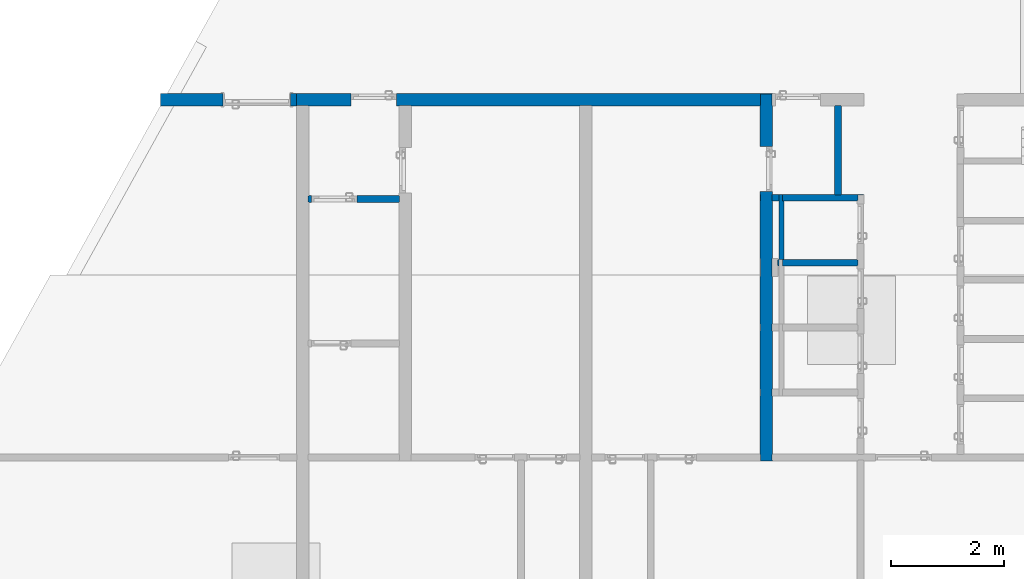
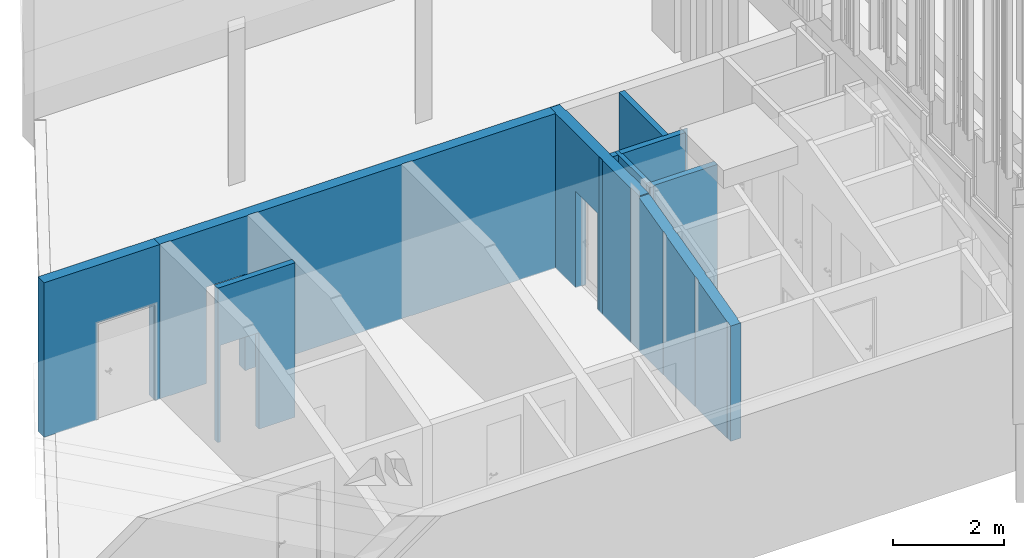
# One storey, part 125 of 390: 8 walls.
"""IFC2X3 building model written with IfcOpenShell, lengths in millimetres."""

from ifc_helpers import new_model, entity, si_unit, converted_unit, derived_unit, money_unit, direction, frame, origin_with_axes, place, context, subcontext, project, spatial, faceted_brep, material, material_list, type_object, element, save


model = new_model("IFC2X3")

# Units and contexts
model_context = context("Model", 3, precision=1e-05, world=origin_with_axes(), true_north=direction((0.0, 1.0)))
body_context = subcontext(model_context, "Body", "Model", "MODEL_VIEW")
ifc_project = project(units=[si_unit("LENGTHUNIT", "METRE", prefix="MILLI"), si_unit("AREAUNIT", "SQUARE_METRE"), si_unit("VOLUMEUNIT", "CUBIC_METRE"), converted_unit("PLANEANGLEUNIT", "DEGREE", entity("IfcPlaneAngleMeasure", 0.0174532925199), si_unit("PLANEANGLEUNIT", "RADIAN"), dimensions=[0, 0, 0, 0, 0, 0, 0]), si_unit("SOLIDANGLEUNIT", "STERADIAN"), money_unit("EUR"), converted_unit("TIMEUNIT", "Year", entity("IfcTimeMeasure", 31556926.0), si_unit("TIMEUNIT", "SECOND"), dimensions=[0, 0, 1, 0, 0, 0, 0]), si_unit("MASSUNIT", "GRAM", prefix="KILO"), si_unit("THERMODYNAMICTEMPERATUREUNIT", "DEGREE_CELSIUS"), si_unit("LUMINOUSINTENSITYUNIT", "LUMEN"), si_unit("ENERGYUNIT", "JOULE", prefix="MEGA"), derived_unit("THERMALCONDUCTANCEUNIT", [(si_unit("POWERUNIT", "WATT"), 1), (si_unit("LENGTHUNIT", "METRE"), -1), (si_unit("THERMODYNAMICTEMPERATUREUNIT", "KELVIN"), -1)]), derived_unit("SPECIFICHEATCAPACITYUNIT", [(si_unit("ENERGYUNIT", "JOULE"), 1), (si_unit("MASSUNIT", "GRAM", prefix="KILO"), -1), (si_unit("THERMODYNAMICTEMPERATUREUNIT", "KELVIN"), -1)]), derived_unit("MASSDENSITYUNIT", [(si_unit("MASSUNIT", "GRAM", prefix="KILO"), 1), (si_unit("VOLUMEUNIT", "CUBIC_METRE"), -1)])], contexts=[model_context])

# Site, building, storey
site_placement = place(None, origin_with_axes())
site = spatial("IfcSite", under=ifc_project, at=site_placement, Name="Site", CompositionType="ELEMENT")
building_placement = place(site_placement, origin_with_axes())
building = spatial("IfcBuilding", under=site, at=building_placement, Name="Building", CompositionType="ELEMENT")
storey_placement = place(building_placement, origin_with_axes())
storey = spatial("IfcBuildingStorey", under=building, at=storey_placement, Name="1 korrus", CompositionType="ELEMENT", Elevation=0.0)

# Walls
ifc_material_1 = material(Name="Krohv - Lubjakivi")
ifc_material_2 = material(Name="Raudbetoon - Konstruktsioon")
ifc_material_list_1 = material_list([ifc_material_1, ifc_material_1, ifc_material_1, ifc_material_1, ifc_material_1, ifc_material_1, ifc_material_1, ifc_material_2, ifc_material_1, ifc_material_1, ifc_material_1, ifc_material_1, ifc_material_1])
wall_type_1 = type_object("IfcWallType", Name="SS-10", PredefinedType="NOTDEFINED")
wall_1_placement = place(storey_placement, frame((117699.999993, 67290.00001, -620.0), z_axis=(0.0, 0.0, 1.0), x_axis=(-1.50745764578e-10, -1.0, 0.0)))
element("IfcWall", 1, at=wall_1_placement, inside=storey, type_object=wall_type_1, material=ifc_material_list_1, Name="SS-10", context=body_context, shape_type="Brep", body=[
    faceted_brep([(6279.99999985, -9.99999984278, 2537.44367445), (6279.99999985, 2.35246488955e-07, 2537.44367445), (6279.99999985, 9.46684508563e-07, 0.0), (6279.99999985, -9.99999984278, 0.0), (6289.99999998, 2.37463382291e-07, 2534.90399795), (6290.00000101, -10.0000020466, 2534.90399769), (6290.00000422, 9.48190859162e-07, 0.0), (6290.00000422, -9.99999905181, 0.0)], [[[0, 1, 2, 3]], [[4, 1, 0, 5]], [[1, 4, 6, 2]], [[6, 7, 3, 2]], [[5, 0, 3, 7]], [[4, 5, 7, 6]]]),
    faceted_brep([(5139.99999976, -10.0000032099, 2826.96679145), (5139.99999976, 6.21440676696e-08, 2826.96679145), (5139.99999976, 7.74832642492e-07, 0.0), (5139.99999976, -9.99999983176, 0.0), (6179.99999985, 2.1304913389e-07, 2562.84043909), (6179.99999985, -9.99999985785, 2562.84043909), (6179.99999985, 9.3160679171e-07, 0.0), (6179.99999985, -9.99999985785, 0.0)], [[[0, 1, 2, 3]], [[4, 1, 0, 5]], [[1, 4, 6, 2]], [[6, 7, 3, 2]], [[5, 0, 3, 7]], [[4, 5, 7, 6]]]),
    faceted_brep([(3989.99999953, -10.0000033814, 3119.02958496), (3989.99999953, -1.12819975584e-07, 3119.02958496), (3989.99999953, 6.01474425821e-07, 0.0), (3989.99999953, -9.99999980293, 0.0), (5019.99999976, 3.63655772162e-08, 2857.44290903), (5019.99999976, -10.0000032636, 2857.44290903), (5019.99999976, 7.56742224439e-07, 0.0), (5019.99999976, -9.99999982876, 0.0)], [[[0, 1, 2, 3]], [[4, 1, 0, 5]], [[1, 4, 6, 2]], [[6, 7, 3, 2]], [[5, 0, 3, 7]], [[4, 5, 7, 6]]]),
    faceted_brep([(3021.43148285, -10.0000014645, 3365.01465159), (3021.43148285, 1.11356257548e-07, 3365.01465159), (3021.43148285, 4.55472104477e-07, 0.0), (3021.43148285, -9.99999977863, 0.0), (3869.99999953, -1.37887923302e-07, 3149.50570253), (3869.99999953, -10.0000034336, 3149.50570253), (3869.99999953, 5.83384007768e-07, 0.0), (3869.99999953, -9.99999979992, 0.0)], [[[0, 1, 2, 3]], [[4, 1, 0, 5]], [[1, 4, 6, 2]], [[7, 3, 2, 6]], [[5, 0, 3, 7]], [[4, 5, 7, 6]]]),
    faceted_brep([(1690.0000001, -10.000000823, 3395.23675944), (1690.0000001, 6.05524519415e-08, 3395.23675944), (1690.0000001, 2.54757992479e-07, 0.0), (1690.0000001, -9.99999974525, 0.0), (2701.43148285, 9.67901314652e-08, 3395.23675944), (2701.43148285, -10.0000013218, 3395.23675944), (2701.43148285, 4.07226252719e-07, 0.0), (2701.43148285, -9.99999977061, 0.0)], [[[0, 1, 2, 3]], [[4, 1, 0, 5]], [[1, 4, 6, 2]], [[2, 6, 7, 3]], [[5, 0, 3, 7]], [[4, 5, 7, 6]]]),
    faceted_brep([(-3.16617843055e-08, -10.0, 3395.23675944), (-3.31681349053e-08, 0.0, 3395.23675944), (-10.0, -1.50635059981e-09, 3395.23675917), (-9.9999999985, -10.0000009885, 3395.23675917), (1570.0000001, 5.62465629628e-08, 3395.23675944), (1570.0000001, -10.0000007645, 3395.23675944), (1570.0000001, 2.36667574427e-07, 0.0), (1520.0000001, 2.29135821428e-07, 0.0), (1520.00000007, 2.29135821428e-07, 20.0), (1520.00000007, 2.29135821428e-07, 2120.0), (720.000000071, 1.0852829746e-07, 2120.0), (720.000000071, 1.0852829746e-07, 20.0), (720.000000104, 1.0852829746e-07, 0.0), (-10.0, -1.50635059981e-09, 0.0), (-9.9999999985, -10.0000009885, 0.0), (720.000000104, -10.0000004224, 0.0), (720.000000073, -9.99999989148, 20.0), (720.000000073, -9.99999989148, 2120.0), (1520.00000007, -9.99999977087, 2120.0), (1520.00000007, -9.99999977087, 20.0), (1520.0000001, -9.9999998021, 0.0), (1570.0000001, -9.99999976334, 0.0)], [[[0, 1, 2, 3]], [[4, 1, 0, 5]], [[1, 4, 6, 7, 8, 9, 10, 11, 12, 13, 2]], [[14, 3, 2, 13]], [[5, 0, 3, 14, 15, 16, 17, 18, 19, 20, 21]], [[4, 5, 21, 6]], [[20, 7, 6, 21]], [[20, 19, 8, 7]], [[18, 9, 8, 19]], [[17, 10, 9, 18]], [[16, 11, 10, 17]], [[12, 11, 16, 15]], [[12, 15, 14, 13]]]),
    faceted_brep([(-219.999999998, -10.0000000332, 3395.23675917), (-209.999999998, -10.0000010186, 3395.23675917), (-210.0, -3.16617843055e-08, 3395.23675917), (-220.0, -3.31681349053e-08, 3395.23675917), (-219.999999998, -10.0000000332, 0.0), (-209.999999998, -10.0000010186, 0.0), (-210.0, -3.16617843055e-08, 0.0), (-220.0, -3.31681349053e-08, 0.0)], [[[0, 1, 2, 3]], [[4, 5, 1, 0]], [[5, 6, 2, 1]], [[3, 2, 6, 7]], [[7, 4, 0, 3]], [[7, 6, 5, 4]]]),
    faceted_brep([(2993.68143661, -209.999999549, 3395.23675944), (2993.68143659, -9.99999954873, 3395.23675944), (-3.16617843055e-08, -10.0, 3395.23675944), (-1.50635059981e-09, -210.0, 3395.23675944), (2993.68143659, -9.99999954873, 3372.06226552), (2993.68143661, -209.999999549, 3372.06226553), (6290.00000101, -10.0000020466, 2534.90399769), (6290.00000422, -9.99999905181, 0.0), (1520.0000001, -9.99999974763, 0.0), (1520.00000007, -9.99999977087, 20.0), (1520.00000007, -9.99999977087, 2120.0), (720.000000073, -9.99999989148, 2120.0), (720.000000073, -9.99999989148, 20.0), (720.000000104, -9.99999986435, 0.0), (-209.999999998, -10.0, 0.0), (-209.999999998, -10.0, 3395.23675923), (-209.999999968, -210.000000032, 3395.23675923), (-209.999999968, -210.000000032, 0.0), (720.000000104, -209.999999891, 0.0), (720.000000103, -209.999999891, 20.0), (720.000000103, -209.999999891, 2120.0), (1520.0000001, -209.999999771, 2120.0), (1520.0000001, -209.999999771, 20.0), (1520.0000001, -209.999999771, 0.0), (6290.00000425, -209.999999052, 0.0), (6290.00000104, -209.999996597, 2534.90399769)], [[[0, 1, 2, 3]], [[4, 1, 0, 5]], [[4, 6, 7, 8, 9, 10, 11, 12, 13, 14, 15, 2, 1]], [[16, 3, 2, 15]], [[5, 0, 3, 16, 17, 18, 19, 20, 21, 22, 23, 24, 25]], [[6, 4, 5, 25]], [[6, 25, 24, 7]], [[24, 23, 8, 7]], [[8, 23, 22, 9]], [[22, 21, 10, 9]], [[21, 20, 11, 10]], [[20, 19, 12, 11]], [[18, 13, 12, 19]], [[14, 13, 18, 17]], [[14, 17, 16, 15]]]),
    faceted_brep([(5139.99999979, -220.000000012, 2826.96679145), (5139.99999979, -209.999996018, 2826.96679145), (5139.99999979, -209.999999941, 0.0), (5139.99999979, -220.000000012, 0.0), (6179.99999982, -210.0, 2562.84043911), (6179.99999982, -219.999999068, 2562.84043911), (6179.99999982, -210.0, 0.0), (6179.99999982, -219.999999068, 0.0)], [[[0, 1, 2, 3]], [[4, 1, 0, 5]], [[1, 4, 6, 2]], [[6, 7, 3, 2]], [[5, 0, 3, 7]], [[4, 5, 7, 6]]]),
    faceted_brep([(3989.99999956, -220.000000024, 3119.02958496), (3989.99999956, -209.999996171, 3119.02958496), (3989.99999956, -209.999999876, 0.0), (3989.99999956, -220.000000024, 0.0), (5019.99999979, -209.999995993, 2857.44290903), (5019.99999979, -220.00000003, 2857.44290903), (5019.99999979, -209.999999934, 0.0), (5019.99999979, -220.00000003, 0.0)], [[[0, 1, 2, 3]], [[4, 1, 0, 5]], [[1, 4, 6, 2]], [[6, 7, 3, 2]], [[5, 0, 3, 7]], [[4, 5, 7, 6]]]),
    faceted_brep([(3021.43148288, -219.999990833, 3365.01465159), (3021.43148288, -209.999997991, 3365.01465159), (3021.43148288, -209.999999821, 0.0), (3021.43148288, -219.999990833, 0.0), (3869.99999956, -209.999996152, 3149.50570253), (3869.99999956, -220.000000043, 3149.50570253), (3869.99999956, -209.999999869, 0.0), (3869.99999956, -220.000000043, 0.0)], [[[0, 1, 2, 3]], [[4, 1, 0, 5]], [[1, 4, 6, 2]], [[7, 3, 2, 6]], [[5, 0, 3, 7]], [[4, 5, 7, 6]]]),
    faceted_brep([(1690.00000011, -219.999999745, 3395.23675944), (1690.00000011, -209.999998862, 3395.23675944), (1690.00000011, -209.999999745, 0.0), (1690.00000011, -219.999999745, 0.0), (2701.43148288, -209.999998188, 3395.23675944), (2701.43148288, -219.999990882, 3395.23675944), (2701.43148288, -209.999999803, 0.0), (2701.43148288, -219.999990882, 0.0)], [[[0, 1, 2, 3]], [[4, 1, 0, 5]], [[1, 4, 6, 2]], [[2, 6, 7, 3]], [[5, 0, 3, 7]], [[4, 5, 7, 6]]]),
    faceted_brep([(0.0, -220.0, 3395.23675944), (-1.50635059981e-09, -210.0, 3395.23675944), (-9.99999996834, -210.0, 3395.23675923), (-9.99999996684, -220.000000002, 3395.23675923), (1570.00000011, -209.999998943, 3395.23675944), (1570.00000011, -219.999999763, 3395.23675944), (1570.00000011, -209.999999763, 0.0), (1520.0000001, -209.999999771, 0.0), (1520.0000001, -209.999999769, 20.0), (1520.0000001, -209.999999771, 2120.0), (720.000000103, -209.999999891, 2120.0), (720.000000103, -209.99999989, 20.0), (720.000000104, -209.999999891, 0.0), (-9.99999996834, -210.0, 0.0), (-9.99999996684, -220.000000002, 0.0), (720.000000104, -219.999999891, 0.0), (720.000000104, -219.999999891, 20.0), (720.000000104, -219.999999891, 2120.0), (1520.0000001, -219.999999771, 2120.0), (1520.0000001, -219.999999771, 20.0), (1520.0000001, -219.999999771, 0.0), (1570.00000011, -219.999999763, 0.0)], [[[0, 1, 2, 3]], [[4, 1, 0, 5]], [[1, 4, 6, 7, 8, 9, 10, 11, 12, 13, 2]], [[14, 3, 2, 13]], [[5, 0, 3, 14, 15, 16, 17, 18, 19, 20, 21]], [[4, 5, 21, 6]], [[20, 7, 6, 21]], [[20, 19, 8, 7]], [[18, 9, 8, 19]], [[17, 10, 9, 18]], [[16, 11, 10, 17]], [[12, 11, 16, 15]], [[12, 15, 14, 13]]]),
])
ifc_material_list_2 = material_list([ifc_material_1, ifc_material_2, ifc_material_1])
wall_2_placement = place(storey_placement, frame((109259.999992, 67290.00001, -620.0), z_axis=(0.0, 0.0, 1.0), x_axis=(-1.0, 0.0, 0.0)))
element("IfcWall", 2, at=wall_2_placement, inside=storey, type_object=wall_type_1, material=ifc_material_list_2, Name="SS-10", context=body_context, shape_type="Brep", body=[
    faceted_brep([(1300.0, -10.0, 2120.0), (1300.0, -10.0, 20.0), (1300.0, -10.0, 0.0), (2407.04459051, -10.0, 0.0), (2407.04459051, -10.0, 3395.23675917), (0.0, -10.0, 3395.23675917), (0.0, -10.0, 0.0), (100.0, -10.0, 0.0), (100.0, -10.0, 20.0), (100.0, -10.0, 2120.0), (1300.0, 0.0, 2120.0), (1300.0, 0.0, 20.0), (1300.0, 0.0, 0.0), (2407.04459051, 0.0, 0.0), (2407.04459051, 0.0, 3395.23675917), (0.0, 0.0, 3395.23675917), (0.0, 0.0, 0.0), (100.0, 0.0, 0.0), (100.0, 0.0, 20.0), (100.0, 0.0, 2120.0)], [[[0, 1, 2, 3, 4, 5, 6, 7, 8, 9]], [[1, 0, 10, 11]], [[1, 11, 12, 2]], [[12, 13, 3, 2]], [[4, 3, 13, 14]], [[4, 14, 15, 5]], [[5, 15, 16, 6]], [[7, 6, 16, 17]], [[18, 8, 7, 17]], [[9, 8, 18, 19]], [[0, 9, 19, 10]], [[19, 18, 17, 16, 15, 14, 13, 12, 11, 10]]]),
    faceted_brep([(100.0, -110.0, 20.0), (100.0, -10.0, 20.0), (100.0, -10.0, 2120.0), (100.0, -210.0, 2120.0), (100.0, -210.0, 20.0), (100.0, -210.0, 0.0), (100.0, -10.0, 0.0), (0.0, -10.0, 0.0), (0.0, -10.0, 3395.23675917), (2407.04459051, -10.0, 3395.23675917), (2407.04459051, -10.0, 0.0), (1300.0, -10.0, 0.0), (1300.0, -10.0, 20.0), (1300.0, -10.0, 2120.0), (1300.0, -210.0, 2120.0), (1300.0, -210.0, 20.0), (1300.0, -210.0, 0.0), (2407.04459051, -210.0, 0.0), (2407.04459051, -210.0, 3395.23675917), (0.0, -210.0, 3395.23675917), (0.0, -210.0, 0.0), (1300.0, -110.0, 20.0)], [[[0, 1, 2, 3, 4]], [[1, 0, 4, 5, 6]], [[2, 1, 6, 7, 8, 9, 10, 11, 12, 13]], [[3, 2, 13, 14]], [[5, 4, 3, 14, 15, 16, 17, 18, 19, 20]], [[20, 7, 6, 5]], [[8, 7, 20, 19]], [[9, 8, 19, 18]], [[17, 10, 9, 18]], [[10, 17, 16, 11]], [[21, 12, 11, 16, 15]], [[13, 12, 21, 15, 14]]]),
    faceted_brep([(1300.0, -220.0, 2120.0), (1300.0, -220.0, 20.0), (1300.0, -220.0, 0.0), (2407.04459051, -220.0, 0.0), (2407.04459051, -220.0, 3395.23675917), (0.0, -220.0, 3395.23675917), (0.0, -220.0, 0.0), (100.0, -220.0, 0.0), (100.0, -220.0, 20.0), (100.0, -220.0, 2120.0), (1300.0, -210.0, 2120.0), (1300.0, -210.0, 20.0), (1300.0, -210.0, 0.0), (2407.04459051, -210.0, 0.0), (2407.04459051, -210.0, 3395.23675917), (0.0, -210.0, 3395.23675917), (0.0, -210.0, 0.0), (100.0, -210.0, 0.0), (100.0, -210.0, 20.0), (100.0, -210.0, 2120.0)], [[[0, 1, 2, 3, 4, 5, 6, 7, 8, 9]], [[1, 0, 10, 11]], [[1, 11, 12, 2]], [[12, 13, 3, 2]], [[4, 3, 13, 14]], [[4, 14, 15, 5]], [[5, 15, 16, 6]], [[7, 6, 16, 17]], [[18, 8, 7, 17]], [[9, 8, 18, 19]], [[0, 9, 19, 10]], [[19, 18, 17, 16, 15, 14, 13, 12, 11, 10]]]),
])
ifc_material_list_3 = material_list([ifc_material_1, ifc_material_1, ifc_material_1, ifc_material_1, ifc_material_2, ifc_material_1])
wall_3_placement = place(storey_placement, frame((117699.999993, 67290.00001, -620.0), z_axis=(0.0, 0.0, 1.0), x_axis=(-1.0, 0.0, 0.0)))
element("IfcWall", 3, at=wall_3_placement, inside=storey, type_object=wall_type_1, material=ifc_material_list_3, Name="SS-10", context=body_context, shape_type="Brep", body=[
    faceted_brep([(7470.0, -10.0, 2120.0), (7470.0, -10.0, 20.0), (7470.0, -10.0, 0.0), (8230.00000137, -10.0, 0.0), (8230.00000137, -10.0, 3395.23675923), (6610.00000007, -10.0, 3395.23675923), (6610.00000007, -10.0, 0.0), (6670.0, -10.0, 0.0), (6670.0, -10.0, 20.0), (6670.0, -10.0, 2120.0), (7470.0, 0.0, 2120.0), (7470.0, 0.0, 20.0), (7470.0, 0.0, 0.0), (8230.00000137, 0.0, 0.0), (8230.00000137, 0.0, 3395.23675923), (6610.00000007, 0.0, 3395.23675923), (6610.00000007, 0.0, 0.0), (6670.0, 0.0, 0.0), (6670.0, 0.0, 20.0), (6670.0, 0.0, 2120.0)], [[[0, 1, 2, 3, 4, 5, 6, 7, 8, 9]], [[1, 0, 10, 11]], [[1, 11, 12, 2]], [[12, 13, 3, 2]], [[4, 3, 13, 14]], [[14, 15, 5, 4]], [[5, 15, 16, 6]], [[7, 6, 16, 17]], [[18, 8, 7, 17]], [[9, 8, 18, 19]], [[0, 9, 19, 10]], [[19, 18, 17, 16, 15, 14, 13, 12, 11, 10]]]),
    faceted_brep([(8440.00000131, -10.0, 3395.23675923), (8440.00000131, 0.0, 3395.23675923), (8430.00000137, 0.0, 3395.23675923), (8430.00000137, -10.0, 3395.23675923), (8440.00000131, -10.0, 0.0), (8440.00000131, 0.0, 0.0), (8430.00000137, 0.0, 0.0), (8430.00000137, -10.0, 0.0)], [[[0, 1, 2, 3]], [[0, 4, 5, 1]], [[1, 5, 6, 2]], [[3, 2, 6, 7]], [[4, 0, 3, 7]], [[5, 4, 7, 6]]]),
    faceted_brep([(3210.00000007, 0.0, 3395.23675923), (220.0, 0.0, 3395.23675923), (219.999999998, -10.0, 3395.23675923), (3210.00000007, -10.0, 3395.23675923), (3210.00000007, 0.0, 0.0), (220.0, 0.0, 0.0), (219.999999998, -10.0, 0.0), (3210.00000007, -10.0, 0.0)], [[[0, 1, 2, 3]], [[4, 5, 1, 0]], [[2, 1, 5, 6]], [[3, 2, 6, 7]], [[3, 7, 4, 0]], [[7, 6, 5, 4]]]),
    faceted_brep([(6410.00000007, 0.0, 3395.23675923), (3410.00000007, 0.0, 3395.23675923), (3410.00000007, -10.0, 3395.23675923), (6410.00000007, -10.0, 3395.23675923), (6410.00000007, 0.0, 0.0), (3410.00000007, 0.0, 0.0), (3410.00000007, -10.0, 0.0), (6410.00000007, -10.0, 0.0)], [[[0, 1, 2, 3]], [[4, 5, 1, 0]], [[2, 1, 5, 6]], [[3, 2, 6, 7]], [[3, 7, 4, 0]], [[7, 6, 5, 4]]]),
    faceted_brep([(7470.0, -210.0, 2120.0), (7470.0, -210.0, 20.0), (7470.0, -210.0, 0.0), (8440.00000131, -210.0, 0.0), (8440.00000131, -210.0, 3395.23675923), (209.999999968, -210.0, 3395.23675923), (209.999999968, -210.0, 0.0), (6670.0, -210.0, 0.0), (6670.0, -210.0, 20.0), (6670.0, -210.0, 2120.0), (7470.0, -10.0, 2120.0), (7470.0, -10.0, 20.0), (7470.0, -10.0, 0.0), (8440.00000131, -10.0, 0.0), (8440.00000131, -10.0, 3395.23675923), (209.999999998, -10.0, 3395.23675923), (209.999999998, -10.0, 0.0), (6670.0, -10.0, 0.0), (6670.0, -10.0, 20.0), (6670.0, -10.0, 2120.0)], [[[0, 1, 2, 3, 4, 5, 6, 7, 8, 9]], [[1, 0, 10, 11]], [[1, 11, 12, 2]], [[12, 13, 3, 2]], [[4, 3, 13, 14]], [[4, 14, 15, 5]], [[5, 15, 16, 6]], [[7, 6, 16, 17]], [[18, 8, 7, 17]], [[9, 8, 18, 19]], [[0, 9, 19, 10]], [[19, 18, 17, 16, 15, 14, 13, 12, 11, 10]]]),
    faceted_brep([(7470.0, -220.0, 2120.0), (7470.0, -220.0, 20.0), (7470.0, -220.0, 0.0), (8440.00000131, -220.0, 0.0), (8440.00000131, -220.0, 3395.23675923), (9.99999996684, -220.0, 3395.23675923), (9.99999996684, -220.0, 0.0), (6670.0, -220.0, 0.0), (6670.0, -220.0, 20.0), (6670.0, -220.0, 2120.0), (7470.0, -210.0, 2120.0), (7470.0, -210.0, 20.0), (7470.0, -210.0, 0.0), (8440.00000131, -210.0, 0.0), (8440.00000131, -210.0, 3395.23675923), (9.99999996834, -210.0, 3395.23675923), (9.99999996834, -210.0, 0.0), (6670.0, -210.0, 0.0), (6670.0, -210.0, 20.0), (6670.0, -210.0, 2120.0)], [[[0, 1, 2, 3, 4, 5, 6, 7, 8, 9]], [[1, 0, 10, 11]], [[1, 11, 12, 2]], [[12, 13, 3, 2]], [[14, 4, 3, 13]], [[5, 4, 14, 15]], [[6, 5, 15, 16]], [[7, 6, 16, 17]], [[18, 8, 7, 17]], [[9, 8, 18, 19]], [[0, 9, 19, 10]], [[19, 18, 17, 16, 15, 14, 13, 12, 11, 10]]]),
])
ifc_material_3 = material(Name="Müüriplokk - Konstuktsioon")
ifc_material_list_4 = material_list([ifc_material_1, ifc_material_3, ifc_material_1])
wall_type_2 = type_object("IfcWallType", Name="SS-07", PredefinedType="NOTDEFINED")
wall_4_placement = place(storey_placement, frame((111299.999993, 65700.0000109, -620.0), z_axis=(0.0, 0.0, 1.0), x_axis=(-1.0, 0.0, 0.0)))
element("IfcWall", 4, at=wall_4_placement, inside=storey, type_object=wall_type_2, material=ifc_material_list_4, Name="SS-07", context=body_context, shape_type="Brep", body=[
    faceted_brep([(1820.00000108, 110.0, 3395.23675944), (220.000000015, 110.0, 3395.23675944), (220.000000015, 110.0, 0.0), (970.000001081, 110.0, 0.0), (970.000001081, 110.0, 20.0), (970.000001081, 110.0, 2120.0), (1770.00000108, 110.0, 2120.0), (1770.00000108, 110.0, 20.0), (1770.00000108, 110.0, 0.0), (1820.00000108, 110.0, 0.0), (220.000000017, 120.0, 3395.23675944), (1820.00000108, 120.0, 3395.23675944), (220.000000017, 120.0, 0.0), (970.000001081, 120.0, 0.0), (970.000001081, 120.0, 20.0), (970.000001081, 120.0, 2120.0), (1770.00000108, 120.0, 2120.0), (1770.00000108, 120.0, 20.0), (1770.00000108, 120.0, 0.0), (1820.00000108, 120.0, 0.0)], [[[0, 1, 2, 3, 4, 5, 6, 7, 8, 9]], [[10, 1, 0, 11]], [[1, 10, 12, 2]], [[13, 3, 2, 12]], [[13, 14, 4, 3]], [[15, 5, 4, 14]], [[16, 6, 5, 15]], [[17, 7, 6, 16]], [[8, 7, 17, 18]], [[8, 18, 19, 9]], [[11, 0, 9, 19]], [[10, 11, 19, 18, 17, 16, 15, 14, 13, 12]]]),
    faceted_brep([(1830.00000108, 10.0, 3395.23675944), (210.000000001, 10.0, 3395.23675944), (210.000000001, 10.0, 0.0), (970.000001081, 10.0, 0.0), (970.000001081, 10.0, 20.0), (970.000001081, 10.0, 2120.0), (1770.00000108, 10.0, 2120.0), (1770.00000108, 10.0, 20.0), (1770.00000108, 10.0, 0.0), (1830.00000108, 10.0, 0.0), (210.000000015, 110.0, 3395.23675944), (1830.00000108, 110.0, 3395.23675944), (210.000000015, 110.0, 0.0), (970.000001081, 110.0, 0.0), (970.000001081, 110.0, 20.0), (970.000001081, 110.0, 2120.0), (1770.00000108, 110.0, 2120.0), (1770.00000108, 110.0, 20.0), (1770.00000108, 110.0, 0.0), (1830.00000108, 110.0, 0.0)], [[[0, 1, 2, 3, 4, 5, 6, 7, 8, 9]], [[10, 1, 0, 11]], [[1, 10, 12, 2]], [[13, 3, 2, 12]], [[13, 14, 4, 3]], [[15, 5, 4, 14]], [[16, 6, 5, 15]], [[17, 7, 6, 16]], [[8, 7, 17, 18]], [[8, 18, 19, 9]], [[11, 0, 9, 19]], [[10, 11, 19, 18, 17, 16, 15, 14, 13, 12]]]),
    faceted_brep([(1820.00000108, 0.0, 3395.23675944), (220.0, 0.0, 3395.23675944), (220.0, 0.0, 0.0), (970.000001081, 0.0, 0.0), (970.000001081, 0.0, 20.0), (970.000001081, 0.0, 2120.0), (1770.00000108, 0.0, 2120.0), (1770.00000108, 0.0, 20.0), (1770.00000108, 0.0, 0.0), (1820.00000108, 0.0, 0.0), (220.000000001, 10.0, 3395.23675944), (1820.00000108, 10.0, 3395.23675944), (220.000000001, 10.0, 0.0), (970.000001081, 10.0, 0.0), (970.000001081, 10.0, 20.0), (970.000001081, 10.0, 2120.0), (1770.00000108, 10.0, 2120.0), (1770.00000108, 10.0, 20.0), (1770.00000108, 10.0, 0.0), (1820.00000108, 10.0, 0.0)], [[[0, 1, 2, 3, 4, 5, 6, 7, 8, 9]], [[10, 1, 0, 11]], [[1, 10, 12, 2]], [[13, 3, 2, 12]], [[13, 14, 4, 3]], [[15, 5, 4, 14]], [[16, 6, 5, 15]], [[17, 7, 6, 16]], [[8, 7, 17, 18]], [[8, 18, 19, 9]], [[11, 0, 9, 19]], [[10, 11, 19, 18, 17, 16, 15, 14, 13, 12]]]),
])
ifc_material_list_5 = material_list([ifc_material_1, ifc_material_1, ifc_material_1, ifc_material_3, ifc_material_3, ifc_material_3, ifc_material_1, ifc_material_1, ifc_material_1, ifc_material_1])
wall_5_placement = place(storey_placement, frame((119319.999993, 65600.0000097, -620.0), z_axis=(0.0, 0.0, 1.0), x_axis=(-1.0, 1.40146831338e-10, 0.0)))
element("IfcWall", 5, at=wall_5_placement, inside=storey, type_object=wall_type_2, material=ifc_material_list_5, Name="SS-07", context=body_context, shape_type="Brep", body=[
    faceted_brep([(1444.00000008, -9.99999979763, 3395.23675944), (120.000000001, -9.99999998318, 3395.23675944), (120.000000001, -9.99999998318, 0.0), (1444.00000008, -9.99999979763, 0.0), (120.0, 1.68256519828e-08, 3395.23675944), (1444.00000007, 2.02376781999e-07, 3395.23675944), (120.0, 1.68256519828e-08, 0.0), (1444.00000007, 2.02376781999e-07, 0.0)], [[[0, 1, 2, 3]], [[4, 1, 0, 5]], [[1, 4, 6, 2]], [[7, 3, 2, 6]], [[5, 0, 3, 7]], [[4, 5, 7, 6]]]),
    faceted_brep([(1629.99999995, -9.99999977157, 3395.23675944), (1510.00000008, -9.99999978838, 3395.23675944), (1510.00000008, -9.99999978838, 0.0), (1629.99999995, -9.99999977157, 0.0), (1510.00000007, 2.11628048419e-07, 3395.23675944), (1629.99999995, 2.28439489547e-07, 3395.23675944), (1510.00000007, 2.11628048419e-07, 0.0), (1629.99999995, 2.28439489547e-07, 0.0)], [[[0, 1, 2, 3]], [[4, 1, 0, 5]], [[1, 4, 6, 2]], [[7, 3, 2, 6]], [[5, 0, 3, 7]], [[4, 5, 7, 6]]]),
    faceted_brep([(1840.0, -9.99999974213, 3395.23675944), (1829.99999995, -9.99999974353, 3395.23675944), (1829.99999995, -9.99999974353, 0.0), (1840.0, -9.99999974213, 0.0), (1829.99999995, 2.564775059e-07, 3395.23675944), (1840.0, 2.57870169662e-07, 3395.23675944), (1829.99999995, 2.564775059e-07, 0.0), (1840.0, 2.57870169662e-07, 0.0)], [[[0, 1, 2, 3]], [[4, 1, 0, 5]], [[1, 4, 6, 2]], [[6, 7, 3, 2]], [[5, 0, 3, 7]], [[4, 5, 7, 6]]]),
    faceted_brep([(1444.00000009, -109.999999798, 3395.23675944), (110.000000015, -109.999999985, 3395.23675944), (110.000000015, -109.999999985, 0.0), (1444.00000009, -109.999999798, 0.0), (110.000000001, -9.99999998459, 3395.23675944), (1444.00000008, -9.99999979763, 3395.23675944), (110.000000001, -9.99999998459, 0.0), (1444.00000008, -9.99999979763, 0.0)], [[[0, 1, 2, 3]], [[4, 1, 0, 5]], [[1, 4, 6, 2]], [[7, 3, 2, 6]], [[5, 0, 3, 7]], [[4, 5, 7, 6]]]),
    faceted_brep([(1629.99999995, -109.999999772, 3395.23675944), (1510.00000009, -109.999999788, 3395.23675944), (1510.00000009, -109.999999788, 0.0), (1629.99999995, -109.999999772, 0.0), (1510.00000008, -9.99999978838, 3395.23675944), (1629.99999995, -9.99999977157, 3395.23675944), (1510.00000008, -9.99999978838, 0.0), (1629.99999995, -9.99999977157, 0.0)], [[[0, 1, 2, 3]], [[4, 1, 0, 5]], [[1, 4, 6, 2]], [[7, 3, 2, 6]], [[5, 0, 3, 7]], [[4, 5, 7, 6]]]),
    faceted_brep([(1840.0, -109.999999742, 3395.23675944), (1829.99999995, -109.999999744, 3395.23675944), (1829.99999995, -109.999999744, 0.0), (1840.0, -109.999999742, 0.0), (1829.99999995, -9.99999974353, 3395.23675944), (1839.99999998, -9.99999974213, 3395.23675944), (1829.99999995, -9.99999974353, 0.0), (1839.99999998, -9.99999974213, 0.0)], [[[0, 1, 2, 3]], [[4, 1, 0, 5]], [[1, 4, 6, 2]], [[6, 7, 3, 2]], [[5, 0, 3, 7]], [[4, 5, 7, 6]]]),
    faceted_brep([(1444.00000009, -119.999999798, 3395.23675944), (510.000000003, -119.999999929, 3395.23675944), (510.000000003, -119.999999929, 0.0), (1444.00000009, -119.999999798, 0.0), (510.000000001, -109.999999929, 3395.23675944), (1444.00000009, -109.999999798, 3395.23675944), (510.000000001, -109.999999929, 0.0), (1444.00000009, -109.999999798, 0.0)], [[[0, 1, 2, 3]], [[4, 1, 0, 5]], [[1, 4, 6, 2]], [[3, 2, 6, 7]], [[5, 0, 3, 7]], [[4, 5, 7, 6]]]),
    faceted_brep([(1629.99999995, -119.999999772, 3395.23675944), (1510.00000009, -119.999999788, 3395.23675944), (1510.00000009, -119.999999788, 0.0), (1629.99999995, -119.999999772, 0.0), (1510.00000009, -109.999999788, 3395.23675944), (1629.99999995, -109.999999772, 3395.23675944), (1510.00000009, -109.999999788, 0.0), (1629.99999995, -109.999999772, 0.0)], [[[0, 1, 2, 3]], [[4, 1, 0, 5]], [[1, 4, 6, 2]], [[7, 3, 2, 6]], [[5, 0, 3, 7]], [[4, 5, 7, 6]]]),
    faceted_brep([(1840.0, -119.999999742, 3395.23675944), (1829.99999995, -119.999999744, 3395.23675944), (1829.99999995, -119.999999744, 0.0), (1840.0, -119.999999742, 0.0), (1829.99999995, -109.999999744, 3395.23675944), (1840.0, -109.999999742, 3395.23675944), (1829.99999995, -109.999999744, 0.0), (1840.0, -109.999999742, 0.0)], [[[0, 1, 2, 3]], [[4, 1, 0, 5]], [[1, 4, 6, 2]], [[6, 7, 3, 2]], [[5, 0, 3, 7]], [[4, 5, 7, 6]]]),
    faceted_brep([(410.000000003, -119.999999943, 3395.23675944), (10.0000000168, -119.999999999, 3395.23675944), (10.0000000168, -119.999999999, 0.0), (410.000000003, -119.999999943, 0.0), (10.0000000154, -109.999999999, 3395.23675944), (410.000000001, -109.999999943, 3395.23675944), (10.0000000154, -109.999999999, 0.0), (410.000000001, -109.999999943, 0.0)], [[[0, 1, 2, 3]], [[4, 1, 0, 5]], [[1, 4, 6, 2]], [[6, 7, 3, 2]], [[5, 0, 3, 7]], [[4, 5, 7, 6]]]),
])
ifc_material_list_6 = material_list([ifc_material_1, ifc_material_1, ifc_material_3, ifc_material_3, ifc_material_1, ifc_material_1])
wall_6_placement = place(storey_placement, frame((117789.999993, 64450.0000105, -620.0), z_axis=(0.0, 0.0, 1.0), x_axis=(1.0, 0.0, 0.0)))
element("IfcWall", 6, at=wall_6_placement, inside=storey, type_object=wall_type_2, material=ifc_material_list_6, Name="SS-07", context=body_context, shape_type="Brep", body=[
    faceted_brep([(10.0000090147, 120.0, 3395.23675944), (19.9999999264, 120.0, 3395.23675944), (19.9999999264, 120.0, 0.0), (10.0000090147, 120.0, 0.0), (19.9999999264, 110.0, 3395.23675944), (10.0000090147, 110.0, 3395.23675944), (19.9999999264, 110.0, 0.0), (10.0000090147, 110.0, 0.0)], [[[0, 1, 2, 3]], [[4, 1, 0, 5]], [[1, 4, 6, 2]], [[6, 7, 3, 2]], [[5, 0, 3, 7]], [[4, 5, 7, 6]]]),
    faceted_brep([(85.9999999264, 120.0, 3395.23675944), (1410.0, 120.0, 3395.23675944), (1410.0, 120.0, 0.0), (85.9999999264, 120.0, 0.0), (1410.0, 110.0, 3395.23675944), (85.9999999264, 110.0, 3395.23675944), (1410.0, 110.0, 0.0), (85.9999999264, 110.0, 0.0)], [[[0, 1, 2, 3]], [[4, 1, 0, 5]], [[1, 4, 6, 2]], [[3, 2, 6, 7]], [[5, 0, 3, 7]], [[4, 5, 7, 6]]]),
    faceted_brep([(0.0, 110.0, 3395.23675944), (19.9999999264, 110.0, 3395.23675944), (19.9999999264, 110.0, 0.0), (0.0, 110.0, 0.0), (19.9999999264, 10.0, 3395.23675944), (0.0, 10.0, 3395.23675944), (19.9999999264, 10.0, 0.0), (0.0, 10.0, 0.0)], [[[0, 1, 2, 3]], [[4, 1, 0, 5]], [[1, 4, 6, 2]], [[3, 2, 6, 7]], [[5, 0, 3, 7]], [[4, 5, 7, 6]]]),
    faceted_brep([(85.9999999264, 110.0, 3395.23675944), (1420.0, 110.0, 3395.23675944), (1420.0, 110.0, 0.0), (85.9999999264, 110.0, 0.0), (1420.0, 10.0, 3395.23675944), (85.9999999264, 10.0, 3395.23675944), (1420.0, 10.0, 0.0), (85.9999999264, 10.0, 0.0)], [[[0, 1, 2, 3]], [[4, 1, 0, 5]], [[1, 4, 6, 2]], [[2, 6, 7, 3]], [[5, 0, 3, 7]], [[4, 5, 7, 6]]]),
    faceted_brep([(10.0000090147, 10.0, 3395.23675944), (19.9999999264, 10.0, 3395.23675944), (19.9999999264, 10.0, 0.0), (10.0000090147, 10.0, 0.0), (19.9999999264, 0.0, 3395.23675944), (10.0000090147, 0.0, 3395.23675944), (19.9999999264, 0.0, 0.0), (10.0000090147, 0.0, 0.0)], [[[0, 1, 2, 3]], [[4, 1, 0, 5]], [[1, 4, 6, 2]], [[6, 7, 3, 2]], [[5, 0, 3, 7]], [[4, 5, 7, 6]]]),
    faceted_brep([(85.9999999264, 10.0, 3395.23675944), (1410.0, 10.0, 3395.23675944), (1410.0, 10.0, 0.0), (85.9999999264, 10.0, 0.0), (1410.0, 0.0, 3395.23675944), (85.9999999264, 0.0, 3395.23675944), (1410.0, 0.0, 0.0), (85.9999999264, 0.0, 0.0)], [[[0, 1, 2, 3]], [[4, 1, 0, 5]], [[1, 4, 6, 2]], [[2, 6, 7, 3]], [[5, 0, 3, 7]], [[4, 5, 7, 6]]]),
])
wall_7_placement = place(storey_placement, frame((118919.999993, 65600.0000097, -620.0), z_axis=(0.0, 0.0, 1.0), x_axis=(0.0, 1.0, 0.0)))
element("IfcWall", 7, at=wall_7_placement, inside=storey, type_object=wall_type_2, material=ifc_material_list_4, Name="SS-07", context=body_context, shape_type="Brep", body=[
    faceted_brep([(1690.00000028, 110.0, 0.0), (120.000000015, 110.0, 0.0), (120.000000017, 120.0, 0.0), (1690.00000028, 120.0, 0.0), (1690.00000028, 110.0, 3395.23675944), (120.000000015, 110.0, 3395.23675944), (120.000000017, 120.0, 3395.23675944), (1690.00000028, 120.0, 3395.23675944)], [[[0, 1, 2, 3]], [[4, 5, 1, 0]], [[2, 1, 5, 6]], [[3, 2, 6, 7]], [[3, 7, 4, 0]], [[7, 6, 5, 4]]]),
    faceted_brep([(1700.00000028, 10.0, 0.0), (110.000000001, 10.0, 0.0), (110.000000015, 110.0, 0.0), (1700.00000028, 110.0, 0.0), (1700.00000028, 10.0, 3395.23675944), (110.000000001, 10.0, 3395.23675944), (110.000000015, 110.0, 3395.23675944), (1700.00000028, 110.0, 3395.23675944)], [[[0, 1, 2, 3]], [[4, 5, 1, 0]], [[2, 1, 5, 6]], [[3, 2, 6, 7]], [[3, 7, 4, 0]], [[7, 6, 5, 4]]]),
    faceted_brep([(1690.00000028, 0.0, 0.0), (120.0, 0.0, 0.0), (120.000000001, 10.0, 0.0), (1690.00000028, 10.0, 0.0), (1690.00000028, 0.0, 3395.23675944), (120.0, 0.0, 3395.23675944), (120.000000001, 10.0, 3395.23675944), (1690.00000028, 10.0, 3395.23675944)], [[[0, 1, 2, 3]], [[4, 5, 1, 0]], [[2, 1, 5, 6]], [[3, 2, 6, 7]], [[3, 7, 4, 0]], [[7, 6, 5, 4]]]),
])
ifc_material_4 = material(Name="Kipsplaat - Veekindel")
ifc_material_5 = material(Name="Teras")
ifc_material_list_7 = material_list([ifc_material_4, ifc_material_4, ifc_material_5])
wall_type_3 = type_object("IfcWallType", Name="SS-14", PredefinedType="NOTDEFINED")
wall_8_placement = place(storey_placement, frame((117899.999993, 65600.0000099, -620.0), z_axis=(0.0, 0.0, 1.0), x_axis=(0.0, -1.0, 0.0)))
element("IfcWall", 8, at=wall_8_placement, inside=storey, type_object=wall_type_3, material=ifc_material_list_7, Name="SS-14", context=body_context, shape_type="Brep", body=[
    faceted_brep([(2.63042920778e-08, -12.0, 3395.23675944), (2.79953837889e-08, 0.0, 3395.23675944), (2.79953837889e-08, 0.0, 0.0), (2.63042920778e-08, -12.0, 0.0), (1029.99999943, -1.65385927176e-07, 3395.23675944), (1029.99999943, -12.0, 3395.23675944), (1029.99999943, 0.0, 0.0), (1029.99999943, -12.0, 0.0)], [[[0, 1, 2, 3]], [[4, 1, 0, 5]], [[1, 4, 6, 2]], [[2, 6, 7, 3]], [[5, 0, 3, 7]], [[4, 5, 7, 6]]]),
    faceted_brep([(2.46274112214e-08, -24.0, 3395.23675944), (2.63042920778e-08, -12.0, 3395.23675944), (2.63042920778e-08, -12.0, 0.0), (2.46274112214e-08, -24.0, 0.0), (1029.99999943, -12.0, 3395.23675944), (1029.99999943, -24.0, 3395.23675944), (1029.99999943, -12.0, 0.0), (1029.99999943, -24.0, 0.0)], [[[0, 1, 2, 3]], [[4, 1, 0, 5]], [[1, 4, 6, 2]], [[2, 6, 7, 3]], [[5, 0, 3, 7]], [[4, 5, 7, 6]]]),
    faceted_brep([(-119.999999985, -90.0, 3395.23675944), (-119.999999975, -24.0, 3395.23675944), (-119.999999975, -24.0, 0.0), (-119.999999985, -90.0, 0.0), (1029.99999943, -23.9999999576, 3395.23675944), (1029.99999943, -90.0, 3395.23675944), (1029.99999943, -24.0, 0.0), (1029.99999943, -90.0, 0.0)], [[[0, 1, 2, 3]], [[4, 1, 0, 5]], [[1, 4, 6, 2]], [[2, 6, 7, 3]], [[5, 0, 3, 7]], [[4, 5, 7, 6]]]),
])

save(model, "model.ifc")
